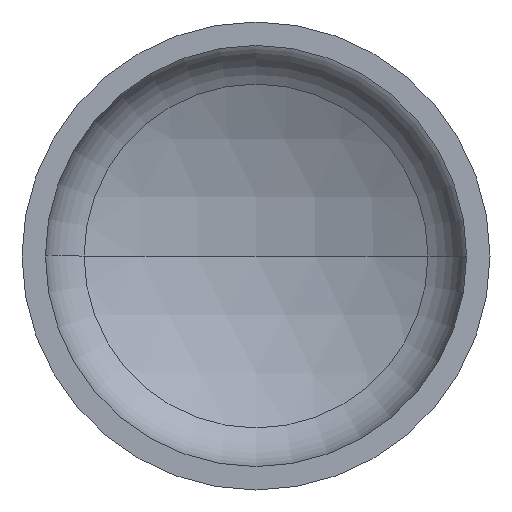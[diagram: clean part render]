
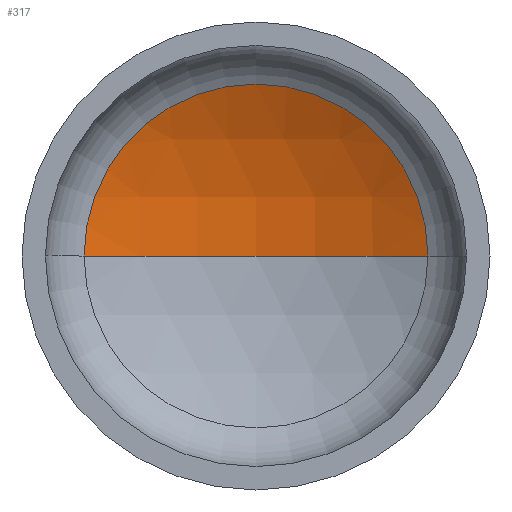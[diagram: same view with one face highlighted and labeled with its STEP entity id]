
A CAD part, front view. The second image highlights one B-rep face of the part: STEP entity #317.
In plain terms, the highlighted spherical face has radius 1440 mm.
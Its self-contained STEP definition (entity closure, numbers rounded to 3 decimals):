
#2 = AXIS2_PLACEMENT_3D ( 'NONE', #391, #353, #109 ) ;
#4 = ORIENTED_EDGE ( 'NONE', *, *, #154, .T. ) ;
#8 = VERTEX_POINT ( 'NONE', #243 ) ;
#11 = AXIS2_PLACEMENT_3D ( 'NONE', #301, #210, #12 ) ;
#12 = DIRECTION ( 'NONE',  ( 1., 0., 0. ) ) ;
#16 = EDGE_LOOP ( 'NONE', ( #20, #43, #4 ) ) ;
#20 = ORIENTED_EDGE ( 'NONE', *, *, #341, .F. ) ;
#43 = ORIENTED_EDGE ( 'NONE', *, *, #159, .T. ) ;
#63 = AXIS2_PLACEMENT_3D ( 'NONE', #265, #264, #236 ) ;
#69 = AXIS2_PLACEMENT_3D ( 'NONE', #216, #248, #247 ) ;
#89 = VERTEX_POINT ( 'NONE', #226 ) ;
#109 = DIRECTION ( 'NONE',  ( -1., 0., 0. ) ) ;
#112 = CIRCLE ( 'NONE', #63, 1440. ) ;
#120 = VERTEX_POINT ( 'NONE', #324 ) ;
#154 = EDGE_CURVE ( 'NONE', #89, #8, #194, .T. ) ;
#159 = EDGE_CURVE ( 'NONE', #120, #89, #112, .T. ) ;
#194 = CIRCLE ( 'NONE', #69, 661.288 ) ;
#210 = DIRECTION ( 'NONE',  ( 0., 0., 1. ) ) ;
#216 = CARTESIAN_POINT ( 'NONE',  ( 0., 344.288, 0. ) ) ;
#226 = CARTESIAN_POINT ( 'NONE',  ( 661.288, 344.288, 0. ) ) ;
#236 = DIRECTION ( 'NONE',  ( -1., 0., 0. ) ) ;
#243 = CARTESIAN_POINT ( 'NONE',  ( -661.288, 344.288, 0. ) ) ;
#247 = DIRECTION ( 'NONE',  ( 1., 0., 0. ) ) ;
#248 = DIRECTION ( 'NONE',  ( 0., -1., 0. ) ) ;
#264 = DIRECTION ( 'NONE',  ( 0., 0., -1. ) ) ;
#265 = CARTESIAN_POINT ( 'NONE',  ( 0., -934.891, 0. ) ) ;
#301 = CARTESIAN_POINT ( 'NONE',  ( 0., -934.891, 0. ) ) ;
#317 = ADVANCED_FACE ( 'NONE', ( #363 ), #411, .F. ) ;
#324 = CARTESIAN_POINT ( 'NONE',  ( 0., 505.109, 0. ) ) ;
#341 = EDGE_CURVE ( 'NONE', #120, #8, #356, .T. ) ;
#353 = DIRECTION ( 'NONE',  ( 0., 0., -1. ) ) ;
#356 = CIRCLE ( 'NONE', #11, 1440. ) ;
#363 = FACE_OUTER_BOUND ( 'NONE', #16, .T. ) ;
#391 = CARTESIAN_POINT ( 'NONE',  ( 0., -934.891, 0. ) ) ;
#411 = SPHERICAL_SURFACE ( 'NONE', #2, 1440. ) ;
